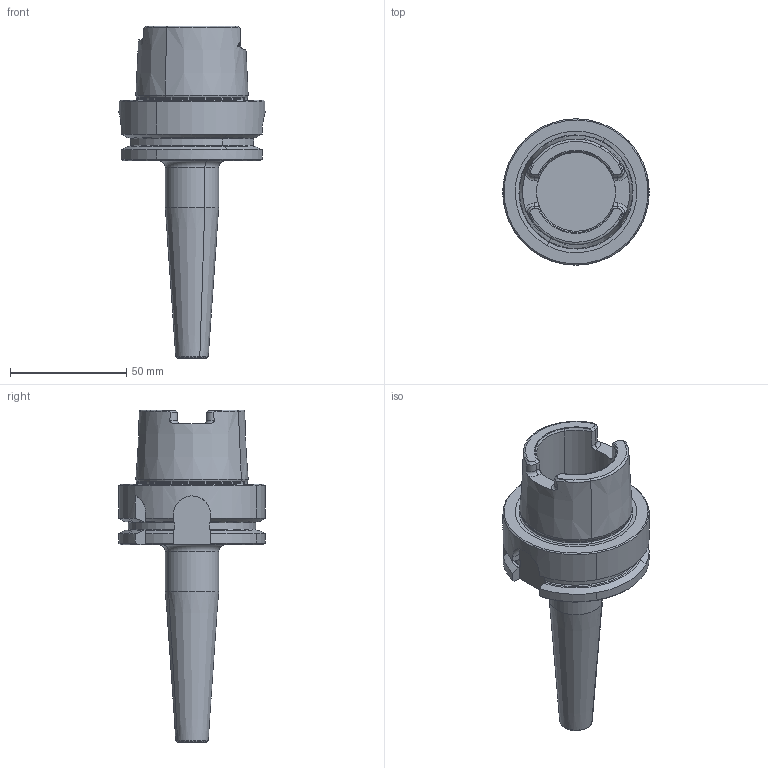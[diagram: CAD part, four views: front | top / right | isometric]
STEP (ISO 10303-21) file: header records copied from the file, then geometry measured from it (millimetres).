
FILE_DESCRIPTION(('CATIA V5 STEP','CAx-IF Rec.Pracs.--- Model Styling and Organization---1.2---2011-12-15'),'2;1');
FILE_NAME('\\nas01\drv1\utils\eitdev\rte\eit\transmagicconvert\db\out\4504449 L.stp','2014-03-23T12:54:02+00:00',('none'),('none'),'CATIA Version 5 Release 21 SP 5 (IN-10)','CATIA V5 STEP AP214','none');
FILE_SCHEMA(('AUTOMOTIVE_DESIGN { 1 0 10303 214 1 1 1 1 }'));
Length unit declared in the file: millimetre
Products named in the file (1): 60972210_0 Holder-Tool HSK A 63 SRK 8X85
Bounding box: 63 x 63 x 143 mm (x, y, z)
Volume: 116403.3 mm3; surface area: 26082.5 mm2
Topology: 1 solids, 1 shells, 136 faces, 351 edges, 220 vertices
Faces by surface type: plane 41, cone 35, cylinder 32, torus 28
Entity records: 4309 total; most frequent: CARTESIAN_POINT 1375, ORIENTED_EDGE 702, DIRECTION 434, EDGE_CURVE 351, AXIS2_PLACEMENT_3D 232, VERTEX_POINT 220, CIRCLE 151, EDGE_LOOP 139
